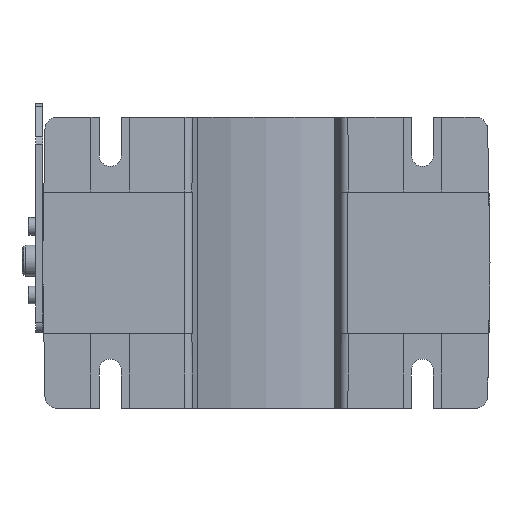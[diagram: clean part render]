
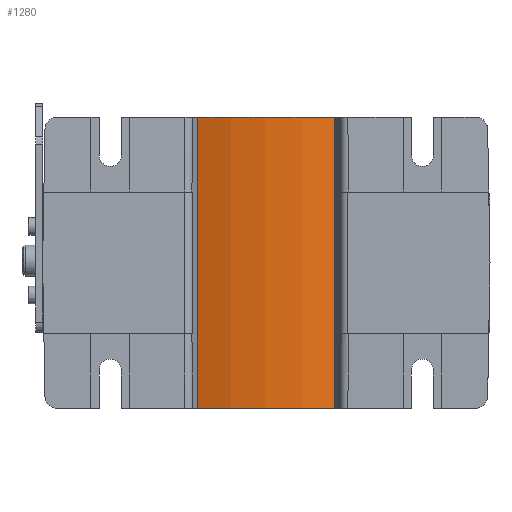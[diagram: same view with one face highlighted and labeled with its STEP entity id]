
A CAD part, front view. The second image highlights one B-rep face of the part: STEP entity #1280.
In plain terms, the highlighted cylindrical face has radius 96.5 mm (diameter 193 mm), a partial arc.
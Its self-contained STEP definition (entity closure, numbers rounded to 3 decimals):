
#870=CARTESIAN_POINT('',(0.,-9.5,0.));
#880=DIRECTION('',(0.,0.,1.));
#890=DIRECTION('',(1.,0.,0.));
#900=AXIS2_PLACEMENT_3D('',#870,#880,#890);
#910=CYLINDRICAL_SURFACE('',#900,96.5);
#920=CARTESIAN_POINT('',(0.,-9.5,-30.));
#930=DIRECTION('',(0.,0.,1.));
#940=DIRECTION('',(1.,0.,0.));
#950=AXIS2_PLACEMENT_3D('',#920,#930,#940);
#960=CIRCLE('',#950,96.5);
#970=CARTESIAN_POINT('',(-33.,-100.182,-30.));
#980=VERTEX_POINT('',#970);
#990=CARTESIAN_POINT('',(33.,-100.182,-30.));
#1000=VERTEX_POINT('',#990);
#1010=EDGE_CURVE('',#980,#1000,#960,.T.);
#1020=ORIENTED_EDGE('',*,*,#1010,.T.);
#1030=CARTESIAN_POINT('',(-33.,-100.182,0.));
#1040=DIRECTION('',(0.,0.,1.));
#1050=VECTOR('',#1040,1.);
#1060=LINE('',#1030,#1050);
#1070=CARTESIAN_POINT('',(-33.,-100.182,110.));
#1080=VERTEX_POINT('',#1070);
#1090=EDGE_CURVE('',#980,#1080,#1060,.T.);
#1100=ORIENTED_EDGE('',*,*,#1090,.F.);
#1110=CARTESIAN_POINT('',(0.,-9.5,110.));
#1120=DIRECTION('',(0.,0.,-1.));
#1130=DIRECTION('',(-1.,0.,-0.));
#1140=AXIS2_PLACEMENT_3D('',#1110,#1120,#1130);
#1150=CIRCLE('',#1140,96.5);
#1160=CARTESIAN_POINT('',(33.,-100.182,110.));
#1170=VERTEX_POINT('',#1160);
#1180=EDGE_CURVE('',#1170,#1080,#1150,.T.);
#1190=ORIENTED_EDGE('',*,*,#1180,.T.);
#1200=CARTESIAN_POINT('',(33.,-100.182,80.));
#1210=DIRECTION('',(0.,0.,-1.));
#1220=VECTOR('',#1210,1.);
#1230=LINE('',#1200,#1220);
#1240=EDGE_CURVE('',#1170,#1000,#1230,.T.);
#1250=ORIENTED_EDGE('',*,*,#1240,.F.);
#1260=EDGE_LOOP('',(#1250,#1190,#1100,#1020));
#1270=FACE_OUTER_BOUND('',#1260,.T.);
#1280=ADVANCED_FACE('',(#1270),#910,.T.);
